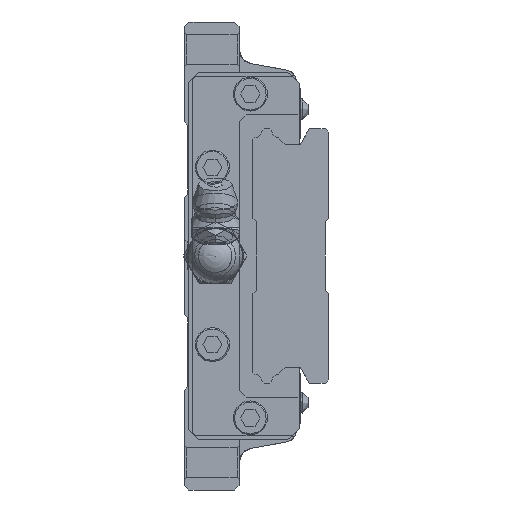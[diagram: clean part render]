
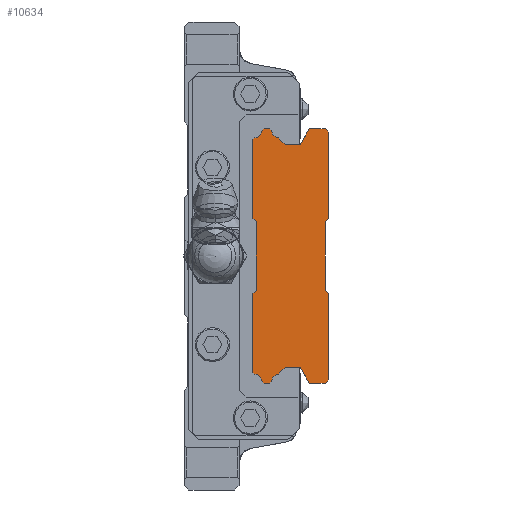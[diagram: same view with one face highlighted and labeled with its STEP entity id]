
A CAD part, left-side view. The second image highlights one B-rep face of the part: STEP entity #10634.
In plain terms, the highlighted planar face has unit normal (-1, 0, 0).
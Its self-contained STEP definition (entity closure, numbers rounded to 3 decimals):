
#518=LINE('',#17147,#1150);
#528=LINE('',#17168,#1160);
#535=LINE('',#17183,#1167);
#544=LINE('',#17201,#1176);
#547=LINE('',#17206,#1179);
#554=LINE('',#17218,#1186);
#563=LINE('',#17237,#1195);
#566=LINE('',#17243,#1198);
#572=LINE('',#17255,#1204);
#581=LINE('',#17273,#1213);
#584=LINE('',#17279,#1216);
#590=LINE('',#17291,#1222);
#595=LINE('',#17360,#1227);
#601=LINE('',#17432,#1233);
#610=LINE('',#17450,#1242);
#613=LINE('',#17515,#1245);
#621=LINE('',#17591,#1253);
#624=LINE('',#17657,#1256);
#630=LINE('',#17729,#1262);
#639=LINE('',#17747,#1271);
#642=LINE('',#17813,#1274);
#648=LINE('',#17885,#1280);
#653=LINE('',#17898,#1285);
#656=LINE('',#17904,#1288);
#658=LINE('',#17907,#1290);
#660=LINE('',#17910,#1292);
#663=LINE('',#17916,#1295);
#666=LINE('',#17928,#1298);
#1150=VECTOR('',#13645,1000.);
#1160=VECTOR('',#13657,1000.);
#1167=VECTOR('',#13668,1000.);
#1176=VECTOR('',#13679,1000.);
#1179=VECTOR('',#13684,1000.);
#1186=VECTOR('',#13695,1000.);
#1195=VECTOR('',#13706,1000.);
#1198=VECTOR('',#13711,1000.);
#1204=VECTOR('',#13721,1000.);
#1213=VECTOR('',#13732,1000.);
#1216=VECTOR('',#13737,1000.);
#1222=VECTOR('',#13747,1000.);
#1227=VECTOR('',#13814,1000.);
#1233=VECTOR('',#13884,1000.);
#1242=VECTOR('',#13895,1000.);
#1245=VECTOR('',#13960,1000.);
#1253=VECTOR('',#14032,1000.);
#1256=VECTOR('',#14097,1000.);
#1262=VECTOR('',#14167,1000.);
#1271=VECTOR('',#14178,1000.);
#1274=VECTOR('',#14243,1000.);
#1280=VECTOR('',#14313,1000.);
#1285=VECTOR('',#14326,1000.);
#1288=VECTOR('',#14331,1000.);
#1290=VECTOR('',#14335,1000.);
#1292=VECTOR('',#14339,1000.);
#1295=VECTOR('',#14344,1000.);
#1298=VECTOR('',#14361,1000.);
#1537=PLANE('',#11741);
#2329=CIRCLE('',#11723,1.19);
#2331=CIRCLE('',#11731,1.19);
#2333=CIRCLE('',#11734,1.19);
#2335=CIRCLE('',#11738,1.19);
#4325=ORIENTED_EDGE('',*,*,#5787,.F.);
#4326=ORIENTED_EDGE('',*,*,#5813,.F.);
#4327=ORIENTED_EDGE('',*,*,#6173,.T.);
#4328=ORIENTED_EDGE('',*,*,#6147,.F.);
#4329=ORIENTED_EDGE('',*,*,#6111,.F.);
#4330=ORIENTED_EDGE('',*,*,#6078,.F.);
#4331=ORIENTED_EDGE('',*,*,#6171,.F.);
#4332=ORIENTED_EDGE('',*,*,#6069,.F.);
#4333=ORIENTED_EDGE('',*,*,#6033,.F.);
#4334=ORIENTED_EDGE('',*,*,#6000,.F.);
#4335=ORIENTED_EDGE('',*,*,#6169,.T.);
#4336=ORIENTED_EDGE('',*,*,#5849,.F.);
#4337=ORIENTED_EDGE('',*,*,#5843,.F.);
#4338=ORIENTED_EDGE('',*,*,#5840,.F.);
#4339=ORIENTED_EDGE('',*,*,#6167,.T.);
#4340=ORIENTED_EDGE('',*,*,#6164,.F.);
#4341=ORIENTED_EDGE('',*,*,#6161,.F.);
#4342=ORIENTED_EDGE('',*,*,#5831,.F.);
#4343=ORIENTED_EDGE('',*,*,#5825,.F.);
#4344=ORIENTED_EDGE('',*,*,#5822,.F.);
#4345=ORIENTED_EDGE('',*,*,#5962,.F.);
#4346=ORIENTED_EDGE('',*,*,#5929,.F.);
#4347=ORIENTED_EDGE('',*,*,#6159,.F.);
#4348=ORIENTED_EDGE('',*,*,#5920,.F.);
#4349=ORIENTED_EDGE('',*,*,#5884,.F.);
#4350=ORIENTED_EDGE('',*,*,#5777,.F.);
#4351=ORIENTED_EDGE('',*,*,#5806,.F.);
#4352=ORIENTED_EDGE('',*,*,#5803,.F.);
#4353=ORIENTED_EDGE('',*,*,#6157,.F.);
#4354=ORIENTED_EDGE('',*,*,#6154,.F.);
#4355=ORIENTED_EDGE('',*,*,#6151,.T.);
#4356=ORIENTED_EDGE('',*,*,#5794,.F.);
#5777=EDGE_CURVE('',#6874,#6875,#518,.T.);
#5787=EDGE_CURVE('',#6884,#6885,#528,.T.);
#5794=EDGE_CURVE('',#6885,#6891,#535,.T.);
#5803=EDGE_CURVE('',#6898,#6899,#544,.T.);
#5806=EDGE_CURVE('',#6899,#6874,#547,.T.);
#5813=EDGE_CURVE('',#6902,#6884,#554,.T.);
#5822=EDGE_CURVE('',#6911,#6912,#563,.T.);
#5825=EDGE_CURVE('',#6912,#6914,#566,.T.);
#5831=EDGE_CURVE('',#6914,#6918,#572,.T.);
#5840=EDGE_CURVE('',#6925,#6926,#581,.T.);
#5843=EDGE_CURVE('',#6926,#6928,#584,.T.);
#5849=EDGE_CURVE('',#6928,#6932,#590,.T.);
#5884=EDGE_CURVE('',#6875,#6965,#595,.T.);
#5920=EDGE_CURVE('',#6965,#6999,#601,.T.);
#5929=EDGE_CURVE('',#7006,#7007,#610,.T.);
#5962=EDGE_CURVE('',#7007,#6911,#613,.T.);
#6000=EDGE_CURVE('',#7073,#7074,#621,.T.);
#6033=EDGE_CURVE('',#7074,#7106,#624,.T.);
#6069=EDGE_CURVE('',#7106,#7140,#630,.T.);
#6078=EDGE_CURVE('',#7147,#7148,#639,.T.);
#6111=EDGE_CURVE('',#7148,#7180,#642,.T.);
#6147=EDGE_CURVE('',#7180,#7214,#648,.T.);
#6151=EDGE_CURVE('',#7216,#6891,#2329,.T.);
#6154=EDGE_CURVE('',#7216,#7218,#653,.T.);
#6157=EDGE_CURVE('',#7218,#6898,#656,.T.);
#6159=EDGE_CURVE('',#6999,#7006,#658,.T.);
#6161=EDGE_CURVE('',#6918,#7220,#660,.T.);
#6164=EDGE_CURVE('',#7220,#7222,#663,.T.);
#6167=EDGE_CURVE('',#6925,#7222,#2331,.T.);
#6169=EDGE_CURVE('',#7073,#6932,#2333,.T.);
#6171=EDGE_CURVE('',#7140,#7147,#666,.T.);
#6173=EDGE_CURVE('',#6902,#7214,#2335,.T.);
#6874=VERTEX_POINT('',#17146);
#6875=VERTEX_POINT('',#17148);
#6884=VERTEX_POINT('',#17167);
#6885=VERTEX_POINT('',#17169);
#6891=VERTEX_POINT('',#17184);
#6898=VERTEX_POINT('',#17200);
#6899=VERTEX_POINT('',#17202);
#6902=VERTEX_POINT('',#17217);
#6911=VERTEX_POINT('',#17236);
#6912=VERTEX_POINT('',#17238);
#6914=VERTEX_POINT('',#17244);
#6918=VERTEX_POINT('',#17256);
#6925=VERTEX_POINT('',#17272);
#6926=VERTEX_POINT('',#17274);
#6928=VERTEX_POINT('',#17280);
#6932=VERTEX_POINT('',#17292);
#6965=VERTEX_POINT('',#17361);
#6999=VERTEX_POINT('',#17433);
#7006=VERTEX_POINT('',#17449);
#7007=VERTEX_POINT('',#17451);
#7073=VERTEX_POINT('',#17590);
#7074=VERTEX_POINT('',#17592);
#7106=VERTEX_POINT('',#17658);
#7140=VERTEX_POINT('',#17730);
#7147=VERTEX_POINT('',#17746);
#7148=VERTEX_POINT('',#17748);
#7180=VERTEX_POINT('',#17814);
#7214=VERTEX_POINT('',#17886);
#7216=VERTEX_POINT('',#17893);
#7218=VERTEX_POINT('',#17899);
#7220=VERTEX_POINT('',#17911);
#7222=VERTEX_POINT('',#17917);
#8154=EDGE_LOOP('',(#4325,#4326,#4327,#4328,#4329,#4330,#4331,#4332,#4333,
#4334,#4335,#4336,#4337,#4338,#4339,#4340,#4341,#4342,#4343,#4344,#4345,
#4346,#4347,#4348,#4349,#4350,#4351,#4352,#4353,#4354,#4355,#4356));
#9547=FACE_BOUND('',#8154,.T.);
#10634=ADVANCED_FACE('',(#9547),#1537,.F.);
#11723=AXIS2_PLACEMENT_3D('',#17892,#14319,#14320);
#11731=AXIS2_PLACEMENT_3D('',#17922,#14349,#14350);
#11734=AXIS2_PLACEMENT_3D('',#17925,#14355,#14356);
#11738=AXIS2_PLACEMENT_3D('',#17931,#14365,#14366);
#11741=AXIS2_PLACEMENT_3D('',#17934,#14371,#14372);
#13645=DIRECTION('',(0.,-0.707,-0.707));
#13657=DIRECTION('',(0.,-1.,0.));
#13668=DIRECTION('',(0.,-0.707,-0.707));
#13679=DIRECTION('',(0.,-0.493,0.87));
#13684=DIRECTION('',(0.,-1.,0.));
#13695=DIRECTION('',(0.,-0.707,0.707));
#13706=DIRECTION('',(0.,0.707,-0.707));
#13711=DIRECTION('',(0.,1.,0.));
#13721=DIRECTION('',(0.,0.493,0.87));
#13732=DIRECTION('',(0.,0.707,-0.707));
#13737=DIRECTION('',(0.,1.,0.));
#13747=DIRECTION('',(0.,0.707,0.707));
#13814=DIRECTION('',(0.,0.,-1.));
#13884=DIRECTION('',(0.,0.707,-0.707));
#13895=DIRECTION('',(0.,-0.707,-0.707));
#13960=DIRECTION('',(0.,0.,-1.));
#14032=DIRECTION('',(0.,0.707,0.707));
#14097=DIRECTION('',(0.,0.,1.));
#14167=DIRECTION('',(0.,-0.707,0.707));
#14178=DIRECTION('',(0.,0.707,0.707));
#14243=DIRECTION('',(0.,0.,1.));
#14313=DIRECTION('',(0.,-0.707,0.707));
#14319=DIRECTION('',(1.,0.,0.));
#14320=DIRECTION('',(0.,0.,-1.));
#14326=DIRECTION('',(0.,-0.707,-0.707));
#14331=DIRECTION('',(0.,-1.,0.));
#14335=DIRECTION('',(0.,0.,-1.));
#14339=DIRECTION('',(0.,1.,0.));
#14344=DIRECTION('',(0.,0.707,-0.707));
#14349=DIRECTION('',(1.,0.,0.));
#14350=DIRECTION('',(0.,0.,-1.));
#14355=DIRECTION('',(1.,0.,0.));
#14356=DIRECTION('',(0.,0.,-1.));
#14361=DIRECTION('',(0.,0.,1.));
#14365=DIRECTION('',(1.,0.,0.));
#14366=DIRECTION('',(0.,0.,-1.));
#14371=DIRECTION('',(1.,0.,0.));
#14372=DIRECTION('',(0.,0.,-1.));
#17146=CARTESIAN_POINT('',(-25.,0.5,18.5));
#17147=CARTESIAN_POINT('',(-25.,0.5,18.5));
#17148=CARTESIAN_POINT('',(-25.,0.,18.));
#17167=CARTESIAN_POINT('',(-25.,9.385,18.5));
#17168=CARTESIAN_POINT('',(-25.,9.385,18.5));
#17169=CARTESIAN_POINT('',(-25.,8.62,18.5));
#17183=CARTESIAN_POINT('',(-25.,8.62,18.5));
#17184=CARTESIAN_POINT('',(-25.,8.337,18.217));
#17200=CARTESIAN_POINT('',(-25.,4.117,16.2));
#17201=CARTESIAN_POINT('',(-25.,4.117,16.2));
#17202=CARTESIAN_POINT('',(-25.,2.812,18.5));
#17206=CARTESIAN_POINT('',(-25.,2.812,18.5));
#17217=CARTESIAN_POINT('',(-25.,9.663,18.222));
#17218=CARTESIAN_POINT('',(-25.,9.663,18.222));
#17236=CARTESIAN_POINT('',(-25.,0.,-18.));
#17237=CARTESIAN_POINT('',(-25.,0.,-18.));
#17238=CARTESIAN_POINT('',(-25.,0.5,-18.5));
#17243=CARTESIAN_POINT('',(-25.,0.5,-18.5));
#17244=CARTESIAN_POINT('',(-25.,2.812,-18.5));
#17255=CARTESIAN_POINT('',(-25.,2.812,-18.5));
#17256=CARTESIAN_POINT('',(-25.,4.117,-16.2));
#17272=CARTESIAN_POINT('',(-25.,8.337,-18.217));
#17273=CARTESIAN_POINT('',(-25.,8.337,-18.217));
#17274=CARTESIAN_POINT('',(-25.,8.62,-18.5));
#17279=CARTESIAN_POINT('',(-25.,8.62,-18.5));
#17280=CARTESIAN_POINT('',(-25.,9.385,-18.5));
#17291=CARTESIAN_POINT('',(-25.,9.385,-18.5));
#17292=CARTESIAN_POINT('',(-25.,9.663,-18.222));
#17360=CARTESIAN_POINT('',(-25.,0.,18.));
#17361=CARTESIAN_POINT('',(-25.,0.,5.5));
#17432=CARTESIAN_POINT('',(-25.,0.,5.5));
#17433=CARTESIAN_POINT('',(-25.,0.5,5.));
#17449=CARTESIAN_POINT('',(-25.,0.5,-5.));
#17450=CARTESIAN_POINT('',(-25.,0.5,-5.));
#17451=CARTESIAN_POINT('',(-25.,0.,-5.5));
#17515=CARTESIAN_POINT('',(-25.,0.,-5.5));
#17590=CARTESIAN_POINT('',(-25.,10.729,-17.156));
#17591=CARTESIAN_POINT('',(-25.,10.729,-17.156));
#17592=CARTESIAN_POINT('',(-25.,11.,-16.885));
#17657=CARTESIAN_POINT('',(-25.,11.,-16.885));
#17658=CARTESIAN_POINT('',(-25.,11.,-5.5));
#17729=CARTESIAN_POINT('',(-25.,11.,-5.5));
#17730=CARTESIAN_POINT('',(-25.,10.5,-5.));
#17746=CARTESIAN_POINT('',(-25.,10.5,5.));
#17747=CARTESIAN_POINT('',(-25.,10.5,5.));
#17748=CARTESIAN_POINT('',(-25.,11.,5.5));
#17813=CARTESIAN_POINT('',(-25.,11.,5.5));
#17814=CARTESIAN_POINT('',(-25.,11.,16.885));
#17885=CARTESIAN_POINT('',(-25.,11.,16.885));
#17886=CARTESIAN_POINT('',(-25.,10.729,17.156));
#17892=CARTESIAN_POINT('',(-25.,7.153,18.34));
#17893=CARTESIAN_POINT('',(-25.,7.276,17.156));
#17898=CARTESIAN_POINT('',(-25.,7.276,17.156));
#17899=CARTESIAN_POINT('',(-25.,6.32,16.2));
#17904=CARTESIAN_POINT('',(-25.,6.32,16.2));
#17907=CARTESIAN_POINT('',(-25.,0.5,5.));
#17910=CARTESIAN_POINT('',(-25.,4.117,-16.2));
#17911=CARTESIAN_POINT('',(-25.,6.32,-16.2));
#17916=CARTESIAN_POINT('',(-25.,6.32,-16.2));
#17917=CARTESIAN_POINT('',(-25.,7.276,-17.156));
#17922=CARTESIAN_POINT('',(-25.,7.153,-18.34));
#17925=CARTESIAN_POINT('',(-25.,10.847,-18.34));
#17928=CARTESIAN_POINT('',(-25.,10.5,-5.));
#17931=CARTESIAN_POINT('',(-25.,10.847,18.34));
#17934=CARTESIAN_POINT('',(-25.,7.153,18.34));
